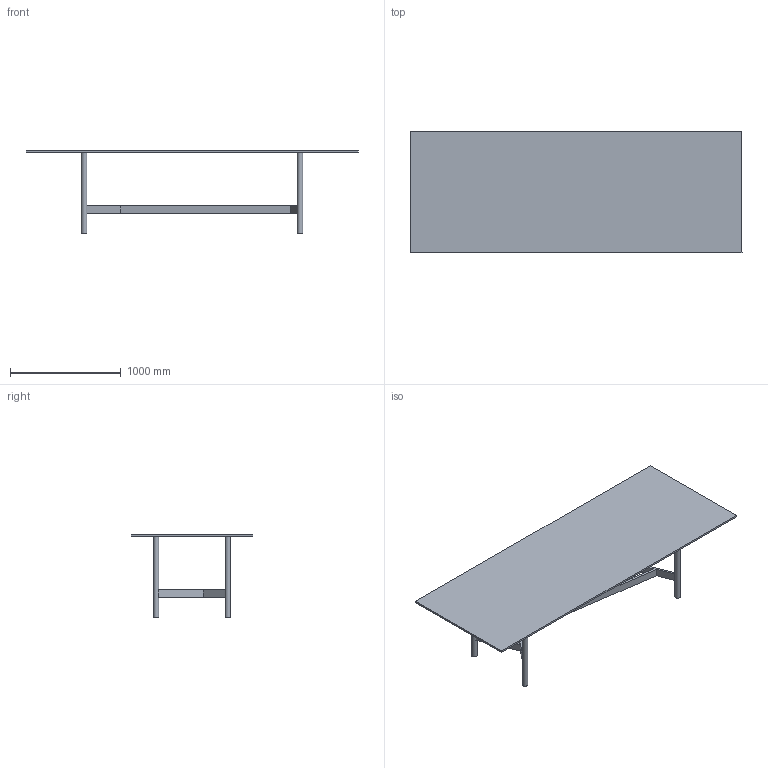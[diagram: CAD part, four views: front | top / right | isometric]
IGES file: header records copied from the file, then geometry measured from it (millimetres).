
Global section: file name: C:\Users\l.marzoli\Desktop\3D_files_2022\AGOS-table_3D\300x110\AGOS-300x110.igs; native system: Rhinoceros ( Aug 11 2021 ); preprocessor: Trout Lake IGES 012 Aug 11 2021; date: 221018.161932; units: millimetre
Bounding box: 3000.27 x 1100.1 x 748.5 mm (x, y, z)
Surface area: 7866218.7 mm2 (no closed solid volume)
Topology: 0 solids, 0 shells, 40 faces, 188 edges, 184 vertices
Faces by surface type: bspline 40
